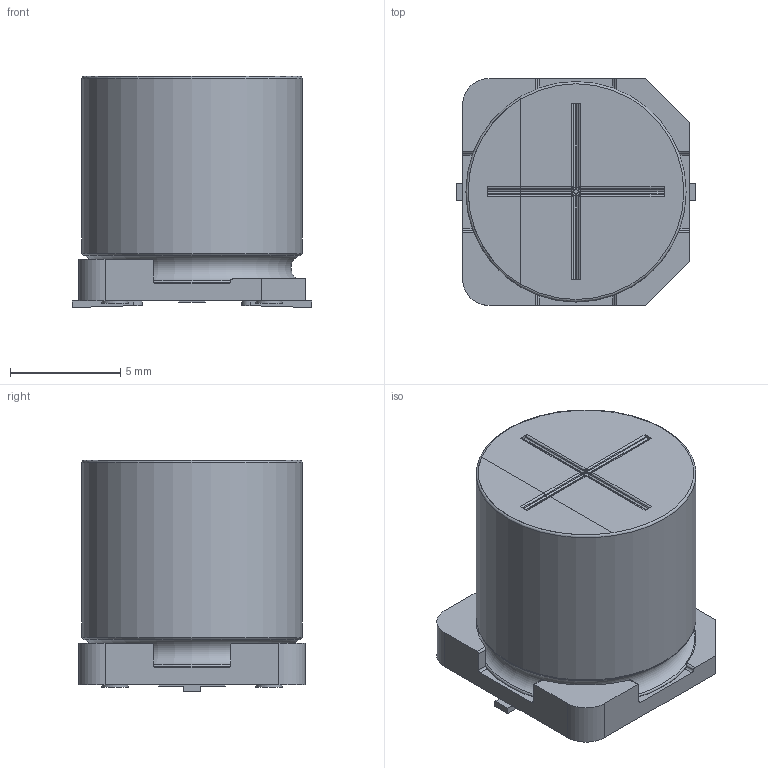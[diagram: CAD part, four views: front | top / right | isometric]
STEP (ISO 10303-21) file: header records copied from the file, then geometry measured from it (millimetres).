
FILE_DESCRIPTION(/* description */ (''),/* implementation_level */ '2;1');
FILE_NAME(/* name */ '10x10.5_Chip.stp',/* time_stamp */ '2017-09-04T19:30:07+09:00',/* author */ (''),/* organization */ (''),/* preprocessor_version */ 'ST-DEVELOPER v16',/* originating_system */ 'SIEMENS PLM Software NX 11.0',/* authorisation */ '');
FILE_SCHEMA (('AUTOMOTIVE_DESIGN { 1 0 10303 214 3 1 1 1 }'));
Length unit declared in the file: millimetre
Products named in the file (1): 10x10.5_Chip_0
Bounding box: 10.9 x 10.3 x 10.5 mm (x, y, z)
Volume: 821.2 mm3; surface area: 771.3 mm2
Topology: 5 solids, 5 shells, 134 faces, 336 edges, 214 vertices
Faces by surface type: plane 61, cylinder 61, torus 4, sphere 4, bspline 4
Full cylindrical faces by diameter (mm): 1.2 x4, 10 x2
Entity records: 4252 total; most frequent: CARTESIAN_POINT 925, DIRECTION 678, ORIENTED_EDGE 638, EDGE_CURVE 319, AXIS2_PLACEMENT_3D 244, VERTEX_POINT 211, LINE 190, VECTOR 190
